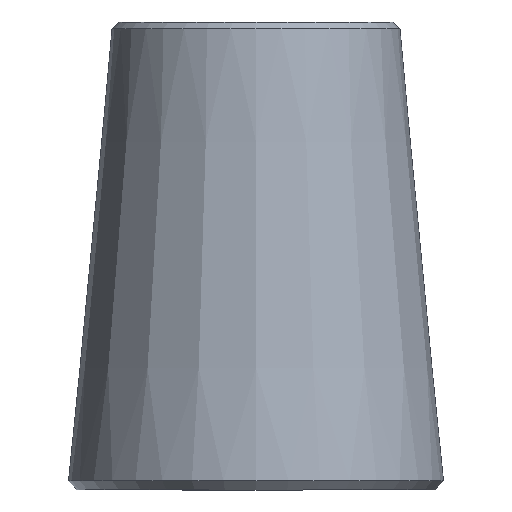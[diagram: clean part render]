
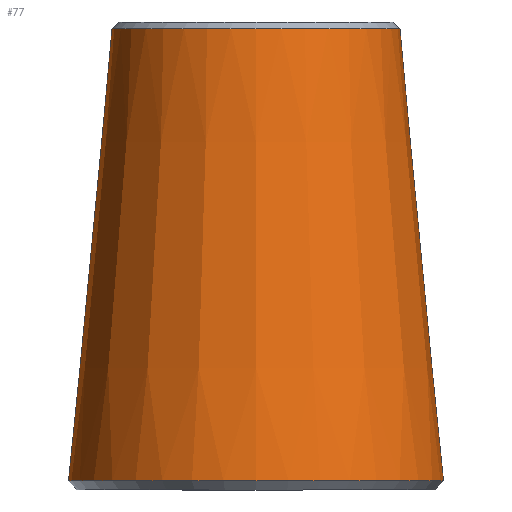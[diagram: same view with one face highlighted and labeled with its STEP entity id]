
A CAD part, front view. The second image highlights one B-rep face of the part: STEP entity #77.
In plain terms, the highlighted conical face has half-angle 5.5 degrees and reference radius 72.63 mm.
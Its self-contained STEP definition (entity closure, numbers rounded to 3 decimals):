
#20=FACE_BOUND('',#34,.T.);
#25=FACE_OUTER_BOUND('',#33,.T.);
#33=EDGE_LOOP('',(#63));
#34=EDGE_LOOP('',(#64));
#44=CIRCLE('',#87,82.117);
#45=CIRCLE('',#89,63.048);
#50=VERTEX_POINT('',#130);
#51=VERTEX_POINT('',#133);
#56=EDGE_CURVE('',#50,#50,#44,.T.);
#57=EDGE_CURVE('',#51,#51,#45,.T.);
#63=ORIENTED_EDGE('',*,*,#57,.F.);
#64=ORIENTED_EDGE('',*,*,#56,.F.);
#74=CONICAL_SURFACE('',#88,72.63,5.5);
#77=ADVANCED_FACE('',(#25,#20),#74,.T.);
#87=AXIS2_PLACEMENT_3D('',#131,#104,#105);
#88=AXIS2_PLACEMENT_3D('',#132,#106,#107);
#89=AXIS2_PLACEMENT_3D('',#134,#108,#109);
#104=DIRECTION('center_axis',(0.,0.,
-1.));
#105=DIRECTION('ref_axis',(0.,1.,0.));
#106=DIRECTION('center_axis',(0.,0.,-1.));
#107=DIRECTION('ref_axis',(0.,-1.,0.));
#108=DIRECTION('center_axis',(0.,0.,1.));
#109=DIRECTION('ref_axis',(0.,1.,0.));
#130=CARTESIAN_POINT('',(0.,-82.117,3.982));
#131=CARTESIAN_POINT('Origin',(0.,0.,
3.982));
#132=CARTESIAN_POINT('Origin',(0.,0.,102.5));
#133=CARTESIAN_POINT('',(0.,-63.048,202.014));
#134=CARTESIAN_POINT('Origin',(0.,0.,
202.014));
